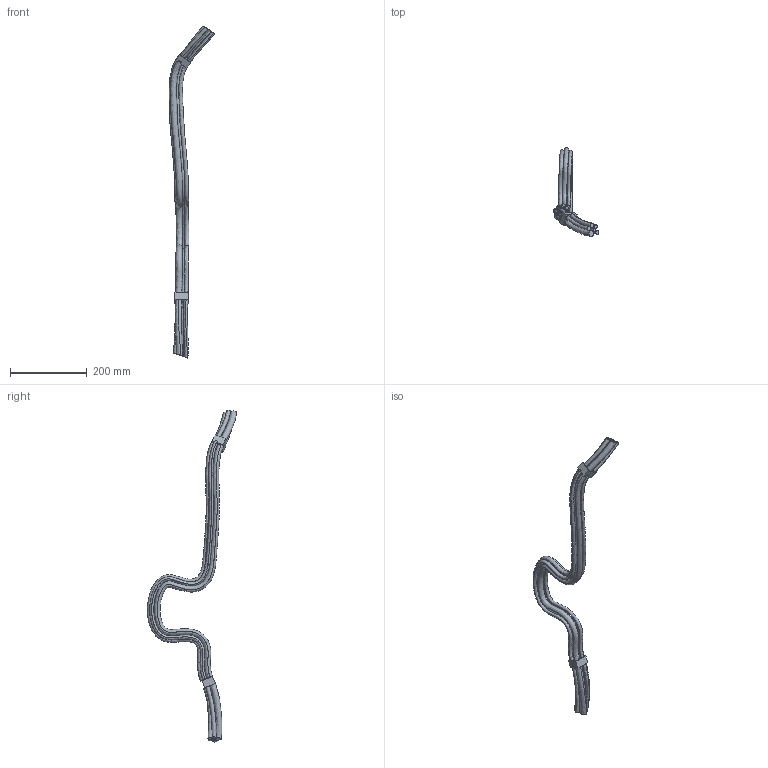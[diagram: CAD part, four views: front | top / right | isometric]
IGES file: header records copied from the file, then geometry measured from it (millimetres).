
Start section: SolidWorks IGES file using analytic representation for surfaces
Global section: file name: C:\Data\SAP_DOC\_2016-Q4_Lättmodeller RobCal\CAD Model_IRB4600_Rev04\IRB4600_45kg-205_IRC5_rev04\IRB4600_45kg-205_IRC5_rev04_IRC5_IGES_j\IRB4600_45kg-205_CABLES_LINK2_rev03.IGS; native system: SolidWorks 2014; preprocessor: SolidWorks 2014; author: SEMAAXM; date: 161206.113201; units: millimetre
Bounding box: 119.77 x 233.19 x 866.25 mm (x, y, z)
Surface area: 216284.3 mm2 (no closed solid volume)
Topology: 0 solids, 0 shells, 66 faces, 1993 edges, 1988 vertices
Faces by surface type: bspline 66
